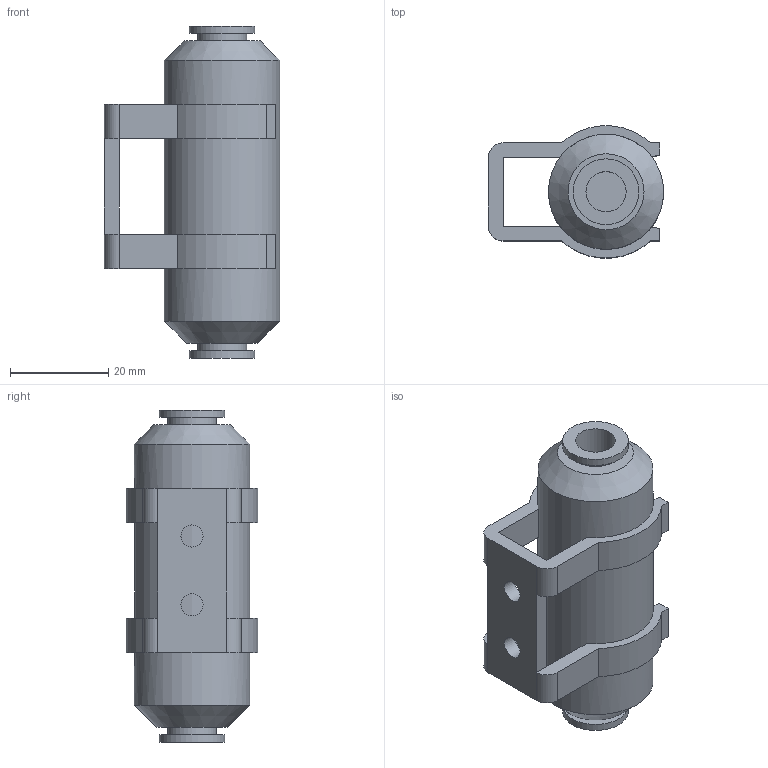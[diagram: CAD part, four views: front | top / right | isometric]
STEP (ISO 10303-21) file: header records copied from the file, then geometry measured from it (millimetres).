
FILE_DESCRIPTION(/* description */ ('FILTRO x VUOTO in LINEA 50 l/min T8'),/* implementation_level */ '2;1');
FILE_NAME(/* name */ 'C:\PNX_VAULTFOLDER\Area Tecnica\Disegni\VARIE-3D\Componenti\1900 (vuoto)\19F08_L_02.stp',/* time_stamp */ '2019-09-13T15:00:43+02:00',/* author */ ('maniean1'),/* organization */ ('Pneumax S.p.A.'),/* preprocessor_version */ 'ST-DEVELOPER v17',/* originating_system */ 'Autodesk Inventor 2019',/* authorisation */ '');
FILE_SCHEMA (('AUTOMOTIVE_DESIGN { 1 0 10303 214 3 1 1 }'));
Length unit declared in the file: millimetre
Products named in the file (1): 19F08.L.02
Bounding box: 35.75 x 26.91 x 67.7 mm (x, y, z)
Volume: 28623 mm3; surface area: 8837.3 mm2
Topology: 1 solids, 1 shells, 57 faces, 165 edges, 112 vertices
Faces by surface type: plane 38, cylinder 17, cone 2
Full cylindrical faces by diameter (mm): 4.5 x2, 8.2 x2, 10 x2, 13.4 x2, 23.5 x1
Entity records: 1970 total; most frequent: DIRECTION 345, CARTESIAN_POINT 335, ORIENTED_EDGE 330, EDGE_CURVE 165, AXIS2_PLACEMENT_3D 122, VERTEX_POINT 112, LINE 101, VECTOR 101
